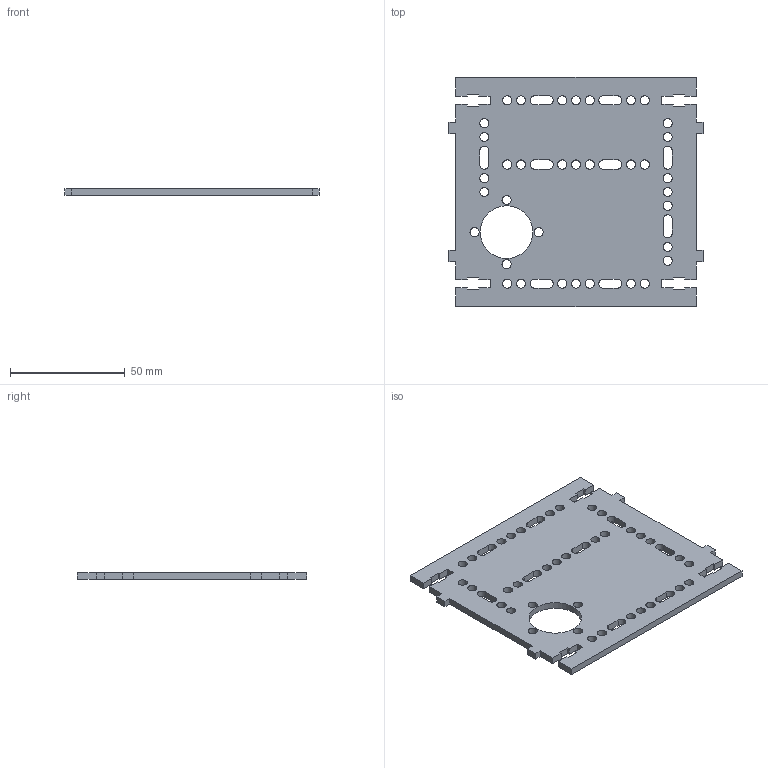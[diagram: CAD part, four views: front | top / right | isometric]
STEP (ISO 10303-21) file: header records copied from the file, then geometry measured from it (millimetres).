
FILE_DESCRIPTION(/* description */ ('Unknown'),/* implementation_level */ '2;1');
FILE_NAME(/* name */ 'PSM04',/* time_stamp */ '2025-10-07T10:37:32+02:00',/* author */ ('Unknown'),/* organization */ ('Unknown'),/* preprocessor_version */ 'ST-DEVELOPER v19.4',/* originating_system */ 'Solid Edge',/* authorisation */ 'Unknown');
FILE_SCHEMA (('AUTOMOTIVE_DESIGN {1 0 10303 214 3 1 1}'));
Length unit declared in the file: millimetre
Products named in the file (1): PSM04
Bounding box: 111 x 100 x 3 mm (x, y, z)
Volume: 27357.1 mm3; surface area: 22178.1 mm2
Topology: 1 solids, 1 shells, 143 faces, 448 edges, 307 vertices
Faces by surface type: plane 88, cylinder 55
Full cylindrical faces by diameter (mm): 4 x36, 23 x1
Entity records: 4816 total; most frequent: CARTESIAN_POINT 812, DIRECTION 784, ORIENTED_EDGE 772, EDGE_CURVE 386, VERTEX_POINT 282, LINE 276, VECTOR 276, EDGE_LOOP 272
